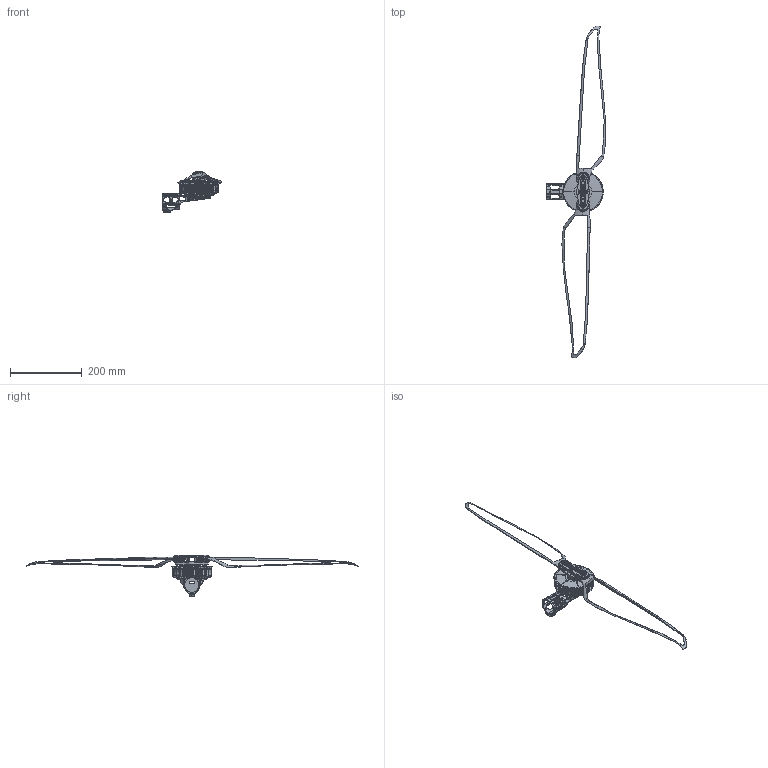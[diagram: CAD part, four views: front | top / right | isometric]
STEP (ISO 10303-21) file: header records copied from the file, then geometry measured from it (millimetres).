
FILE_DESCRIPTION (( 'STEP AP214' ), '1' );
FILE_NAME ('I9.STEP', '2026-06-18T03:01:23', ( '' ), ( '' ), 'SwSTEP 2.0', 'SolidWorks 2022', '' );
FILE_SCHEMA (( 'AUTOMOTIVE_DESIGN' ));
Length unit declared in the file: millimetre
Products named in the file (1): I9
Bounding box: 164.68 x 923.13 x 116.35 mm (x, y, z)
Volume: 194505.9 mm3; surface area: 167408.7 mm2
Topology: 5 solids, 14 shells, 2756 faces, 7632 edges, 4860 vertices
Faces by surface type: cylinder 1216, plane 893, cone 287, bspline 280, torus 74, sphere 6
Entity records: 149570 total; most frequent: CARTESIAN_POINT 80706, ORIENTED_EDGE 15168, DIRECTION 13776, EDGE_CURVE 7584, AXIS2_PLACEMENT_3D 5255, VERTEX_POINT 4852, LINE 3266, VECTOR 3266
